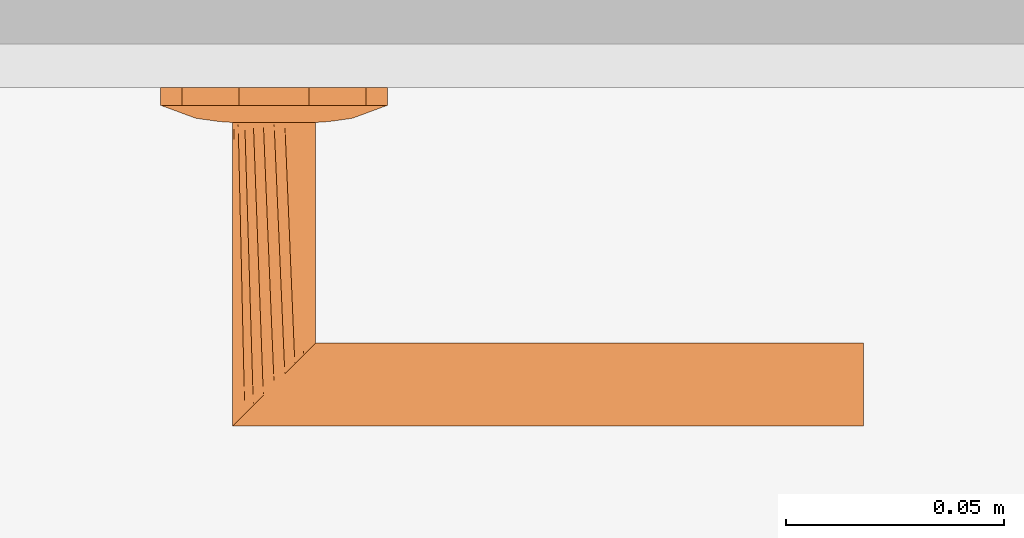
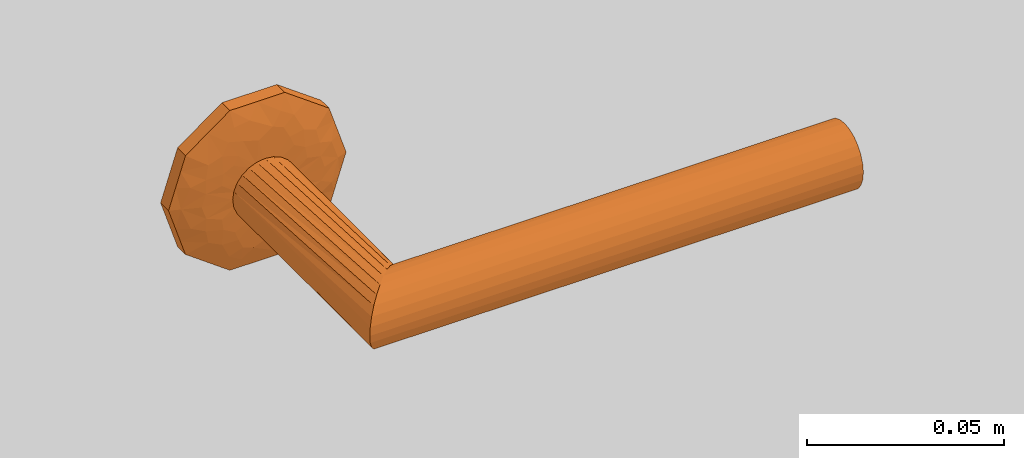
# One storey, part 45 of 57: 1 proxy.
"""IFC2X3 building model written with IfcOpenShell, lengths in millimetres."""

from ifc_helpers import new_model, entity, si_unit, converted_unit, direction, frame, origin, place, context, subcontext, project, spatial, faceted_brep, source, transform, mapped, material, type_object, type_shapes, element, save


model = new_model("IFC2X3")

# Units and contexts
model_context = context("Model", 3, precision=0.01, world=origin(), true_north=direction((6.123233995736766e-17, 1.0)))
plan_context = context("Plan", 3, precision=0.01, world=origin(), true_north=direction((6.123233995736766e-17, 1.0)))
body_context = subcontext(model_context, "Body", "Model", "MODEL_VIEW")
ifc_project = project(units=[si_unit("LENGTHUNIT", "METRE", prefix="MILLI"), converted_unit("PLANEANGLEUNIT", "DEGREE", entity("IfcPlaneAngleMeasure", 0.017453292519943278), si_unit("PLANEANGLEUNIT", "RADIAN"), dimensions=[0, 0, 0, 0, 0, 0, 0]), si_unit("AREAUNIT", "SQUARE_METRE")], contexts=[model_context, plan_context])

# Site, building, storey, space
site_placement = place(None, origin())
site = spatial("IfcSite", under=ifc_project, at=site_placement, Name="Default", CompositionType="ELEMENT")
building_placement = place(site_placement, origin())
building = spatial("IfcBuilding", under=site, at=building_placement, CompositionType="ELEMENT")
storey_placement = place(building_placement, frame((0.0, 0.0, 12811.000000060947)))
storey = spatial("IfcBuildingStorey", under=building, at=storey_placement, Name="5K", CompositionType="ELEMENT", Elevation=12811.000000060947)
space_placement = place(storey_placement, origin())
space = spatial("IfcSpace", under=storey, at=space_placement, Name="5-12.7", CompositionType="ELEMENT", InteriorOrExteriorSpace="INTERNAL")

# Proxy
ifc_material = material(Name="<Unnamed>")
building_element_proxy_type = type_object("IfcBuildingElementProxyType", Name="Door-handle_Lever_ABLOY_INOXI_3-19ss-002_RT:Default", PredefinedType="NOTDEFINED", material=ifc_material)
shared_shape = source(origin(), body_context, "Body", "Brep", [
    faceted_brep([(0.0, 0.0, 0.0), (8.034441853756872, 24.72746942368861, 0.0), (14.534441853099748, 20.00494299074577, 0.0), (21.034441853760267, 15.282416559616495, 0.0), (23.51722092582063, 7.641208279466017, 0.0), (26.0, 0.0, 0.0), (23.517220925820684, -7.641208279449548, 0.0), (0.0, 24.72746942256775, 0.0), (-8.034441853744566, 24.727469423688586, 0.0), (-14.534441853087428, 20.00494299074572, 0.0), (-21.03444185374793, 15.282416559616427, 0.0), (-23.517220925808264, 7.641208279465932, 0.0), (-26.0, 0.0, 0.0), (21.034441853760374, -15.282416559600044, 0.0), (14.534441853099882, -20.004942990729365, 0.0), (8.034441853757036, -24.72746942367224, 0.0), (0.0, -24.72746942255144, 0.0), (-23.517220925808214, -7.641208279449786, 0.0), (-21.034441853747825, -15.282416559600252, 0.0), (-14.53444185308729, -20.004942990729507, 0.0), (-8.0344418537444, -24.72746942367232, 0.0), (0.0, 0.0, 8.0), (9.500000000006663, 0.0, 8.0), (8.312500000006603, 2.056810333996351, 8.0), (7.125000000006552, 4.113620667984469, 8.0), (5.937500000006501, 6.170431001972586, 8.0), (4.7500000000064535, 8.227241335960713, 8.0), (2.375000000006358, 8.2272413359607, 8.0), (0.0, 8.227241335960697, 8.0), (-2.3749999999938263, 8.227241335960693, 8.0), (-4.749999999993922, 8.227241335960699, 8.0), (-5.937499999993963, 6.1704310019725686, 8.0), (-7.124999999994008, 4.1136206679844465, 8.0), (-8.312499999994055, 2.0568103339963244, 8.0), (-9.499999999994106, 0.0, 8.0), (-8.31249999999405, -2.0568103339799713, 8.0), (8.312500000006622, -2.0568103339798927, 8.0), (7.125000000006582, -4.113620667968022, 8.0), (5.937500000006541, -6.170431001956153, 8.0), (4.750000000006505, -8.227241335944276, 8.0), (-7.124999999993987, -4.113620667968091, 8.0), (-5.9374999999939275, -6.17043100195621, 8.0), (-4.74999999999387, -8.227241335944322, 8.0), (-2.374999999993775, -8.227241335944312, 8.0), (0.0, -8.227241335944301, 8.0), (2.3750000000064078, -8.227241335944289, 8.0), (-20.6430713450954, 6.292822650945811, 5.929480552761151), (-16.663919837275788, 7.932665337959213, 6.877259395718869), (-22.48876527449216, 10.806469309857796, 4.030771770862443), (-16.764060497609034, 3.8202578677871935, 7.1747985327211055), (-12.504579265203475, 5.179566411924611, 7.774932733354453), (-11.979136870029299, 13.678312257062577, 6.945778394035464), (-11.963426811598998, 8.62529041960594, 7.618343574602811), (-9.07172672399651, 10.31160661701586, 7.7520782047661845), (8.03444185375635, 24.727469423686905, 4.030771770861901), (0.0, 24.72746942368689, 4.030771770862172), (5.758554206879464, 20.96753300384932, 5.871476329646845), (20.643071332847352, 6.292822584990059, 5.929480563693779), (22.488765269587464, 10.806469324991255, 4.03077177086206), (16.66391982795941, 7.9326653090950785, 6.877259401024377), (9.49943163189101, 18.6436835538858, 6.154325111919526), (14.534441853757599, 20.004942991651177, 4.030771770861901), (-14.534441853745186, 20.00494299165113, 4.030771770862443), (-21.034441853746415, 15.282416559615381, 4.030771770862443), (-15.783149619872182, 11.991003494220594, 6.50080018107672), (-23.943088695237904, 6.330522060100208, 4.030771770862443), (-23.012042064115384, 0.0, 5.135401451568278), (12.50457924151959, 5.179566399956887, 7.774932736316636), (11.963426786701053, 8.625290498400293, 7.618343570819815), (16.76406041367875, 3.820257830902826, 7.17479855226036), (15.783149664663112, 11.991003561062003, 6.50080015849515), (23.01204200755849, 0.0, 5.135401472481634), (17.9853516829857, 0.0, 6.993737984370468), (8.661516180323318, 10.478936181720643, 7.768126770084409), (-3.3573143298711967, 21.197247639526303, 5.971427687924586), (-8.03444185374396, 24.727469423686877, 4.030771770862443), (-7.711266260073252, 12.76034452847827, 7.594456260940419), (-5.97325794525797, 16.43013906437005, 7.110979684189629), (-9.94191586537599, 17.061976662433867, 6.522757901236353), (11.979136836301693, 13.678312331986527, 6.945778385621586), (5.953298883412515, 16.50608604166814, 7.096344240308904), (7.511307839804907, 13.358932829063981, 7.529187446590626), (-1.5654593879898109, 15.307443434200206, 7.519134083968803), (-7.784980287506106, 20.476295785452, 5.812837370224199), (2.8135289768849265, 17.763922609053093, 6.993737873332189), (-17.985351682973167, 0.0, 6.993737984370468), (-26.0, 0.0, 4.030771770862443), (-23.51722092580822, 7.641208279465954, 4.030771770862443), (26.0, 0.0, 4.030771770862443), (24.308823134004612, 5.204907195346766, 4.030771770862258), (23.943088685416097, 6.330522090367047, 4.030771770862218), (21.03444185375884, 15.282416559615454, 4.030771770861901), (22.617646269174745, 10.40981439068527, 4.030771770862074), (20.6430713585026, -6.292822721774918, 5.929480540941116), (16.663919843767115, -7.932665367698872, 6.877259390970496), (22.48876527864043, -10.8064692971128, 4.030771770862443), (16.764060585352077, -3.8202579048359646, 7.174798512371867), (12.504579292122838, -5.17956641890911, 7.774932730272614), (11.979136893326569, -13.678312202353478, 6.9457784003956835), (11.963426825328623, -8.62529034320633, 7.618343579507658), (9.071726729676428, -10.311606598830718, 7.752078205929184), (-8.03444185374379, -24.727469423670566, 4.030771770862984), (0.0, -24.727469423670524, 4.030771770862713), (-5.758554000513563, -20.96753314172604, 5.8714763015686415), (-20.643071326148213, -6.292822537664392, 5.929480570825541), (-22.488765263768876, -10.80646934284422, 4.030771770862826), (-16.66391981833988, -7.932665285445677, 6.877259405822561), (-9.499431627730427, -18.643683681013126, 6.154325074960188), (-14.534441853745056, -20.004942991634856, 4.030771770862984), (14.53444185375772, -20.00494299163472, 4.030771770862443), (21.034441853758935, -15.282416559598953, 4.030771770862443), (15.783149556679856, -11.991003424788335, 6.5008002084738), (23.943088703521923, -6.330522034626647, 4.030771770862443), (-12.504579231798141, -5.17956638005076, 7.77493273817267), (-11.963426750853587, -8.625290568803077, 7.618343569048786), (-16.764060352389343, -3.8202577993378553, 7.174798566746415), (-15.783149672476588, -11.991003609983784, 6.500800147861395), (-8.661516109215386, -10.478936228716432, 7.768126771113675), (3.3573144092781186, -21.197247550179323, 5.971427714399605), (8.034441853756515, -24.727469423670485, 4.030771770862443), (7.711266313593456, -12.760344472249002, 7.5944562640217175), (5.9732581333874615, -16.430139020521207, 7.110979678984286), (9.941915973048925, -17.06197655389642, 6.522757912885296), (-11.979136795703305, -13.678312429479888, 6.945778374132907), (-5.953298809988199, -16.506086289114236, 7.096344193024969), (-7.511307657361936, -13.358932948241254, 7.5291874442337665), (1.5654596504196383, -15.3074431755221, 7.519134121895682), (7.784980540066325, -20.476295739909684, 5.812837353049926), (-2.81352881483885, -17.76392263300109, 6.993737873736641), (23.517220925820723, -7.64120827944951, 4.030771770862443), (-24.308823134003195, -5.20490719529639, 4.030771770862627), (-23.943088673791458, -6.330522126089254, 4.030771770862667), (-21.034441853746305, -15.282416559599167, 4.030771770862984), (-22.617646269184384, -10.409814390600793, 4.0307717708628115)], [[[0, 1, 2]], [[0, 2, 3]], [[0, 3, 4]], [[0, 4, 5]], [[0, 5, 6]], [[0, 7, 1]], [[0, 8, 7]], [[0, 9, 8]], [[0, 10, 9]], [[0, 11, 10]], [[0, 12, 11]], [[0, 6, 13]], [[0, 13, 14]], [[0, 14, 15]], [[0, 15, 16]], [[0, 17, 12]], [[0, 18, 17]], [[0, 19, 18]], [[0, 20, 19]], [[0, 16, 20]], [[21, 22, 23]], [[21, 23, 24]], [[21, 24, 25]], [[21, 25, 26]], [[21, 26, 27]], [[21, 27, 28]], [[21, 28, 29]], [[21, 29, 30]], [[21, 30, 31]], [[21, 31, 32]], [[21, 32, 33]], [[21, 33, 34]], [[21, 34, 35]], [[21, 36, 22]], [[21, 37, 36]], [[21, 38, 37]], [[21, 39, 38]], [[21, 35, 40]], [[21, 40, 41]], [[21, 41, 42]], [[21, 42, 43]], [[21, 43, 44]], [[21, 44, 45]], [[21, 45, 39]], [[46, 47, 48]], [[49, 50, 47]], [[33, 32, 50]], [[51, 52, 53]], [[32, 52, 50]], [[49, 47, 46]], [[54, 55, 56]], [[57, 58, 59]], [[60, 61, 54]], [[62, 63, 64]], [[46, 65, 66]], [[67, 59, 68]], [[23, 69, 67]], [[70, 68, 59]], [[23, 22, 69]], [[52, 51, 64]], [[71, 69, 72]], [[73, 25, 68]], [[74, 55, 75]], [[76, 77, 78]], [[70, 61, 79]], [[71, 57, 69]], [[60, 80, 81]], [[51, 76, 78]], [[77, 29, 82]], [[26, 81, 27]], [[74, 83, 77]], [[77, 82, 74]], [[74, 84, 55]], [[34, 49, 85]], [[23, 67, 24]], [[28, 84, 82]], [[74, 82, 84]], [[29, 76, 30]], [[29, 28, 82]], [[49, 34, 33]], [[47, 50, 52]], [[47, 52, 64]], [[50, 49, 33]], [[53, 76, 51]], [[52, 32, 31]], [[49, 66, 85]], [[86, 66, 65]], [[24, 67, 68]], [[83, 78, 77]], [[49, 46, 66]], [[48, 64, 63]], [[46, 48, 87, 65]], [[48, 47, 64]], [[59, 67, 69]], [[26, 73, 81]], [[79, 68, 70]], [[25, 24, 68]], [[71, 88, 89, 90]], [[22, 72, 69]], [[59, 69, 57]], [[79, 61, 60]], [[51, 62, 64]], [[70, 58, 91]], [[90, 57, 71]], [[58, 70, 59]], [[57, 90, 92]], [[79, 60, 81]], [[61, 70, 91]], [[56, 80, 60]], [[79, 81, 73]], [[80, 84, 27]], [[79, 73, 68]], [[27, 84, 28]], [[25, 73, 26]], [[77, 76, 29]], [[31, 30, 53]], [[78, 62, 51]], [[75, 62, 83]], [[78, 83, 62]], [[75, 83, 74]], [[76, 53, 30]], [[31, 53, 52]], [[81, 80, 27]], [[84, 80, 56]], [[84, 56, 55]], [[54, 56, 60]], [[93, 94, 95]], [[96, 97, 94]], [[36, 37, 97]], [[98, 99, 100]], [[37, 99, 97]], [[96, 94, 93]], [[101, 102, 103]], [[104, 105, 106]], [[107, 108, 101]], [[109, 110, 111]], [[93, 112, 71]], [[113, 106, 114]], [[35, 115, 113]], [[116, 114, 106]], [[35, 34, 115]], [[99, 98, 111]], [[66, 115, 85]], [[117, 41, 114]], [[118, 102, 119]], [[120, 121, 122]], [[116, 108, 123]], [[66, 104, 115]], [[107, 124, 125]], [[120, 45, 121]], [[121, 45, 126]], [[42, 125, 43]], [[118, 127, 121]], [[121, 126, 118]], [[118, 128, 102]], [[22, 96, 72]], [[35, 113, 40]], [[44, 128, 126]], [[118, 126, 128]], [[45, 120, 39]], [[45, 44, 126]], [[96, 22, 36]], [[94, 97, 99]], [[94, 99, 111]], [[97, 96, 36]], [[100, 120, 98]], [[99, 37, 38]], [[96, 71, 72]], [[88, 71, 112]], [[40, 113, 114]], [[127, 122, 121]], [[96, 93, 71]], [[95, 111, 110]], [[93, 95, 129, 112]], [[95, 94, 111]], [[106, 113, 115]], [[42, 117, 125]], [[123, 114, 116]], [[41, 40, 114]], [[66, 86, 130, 131]], [[34, 85, 115]], [[106, 115, 104]], [[123, 108, 107]], [[98, 109, 111]], [[116, 105, 132]], [[131, 104, 66]], [[105, 116, 106]], [[104, 131, 133]], [[123, 107, 125]], [[108, 116, 132]], [[103, 124, 107]], [[123, 125, 117]], [[124, 128, 43]], [[123, 117, 114]], [[43, 128, 44]], [[41, 117, 42]], [[38, 39, 100]], [[98, 120, 122]], [[122, 109, 98]], [[119, 109, 127]], [[122, 127, 109]], [[119, 127, 118]], [[120, 100, 39]], [[38, 100, 99]], [[125, 124, 43]], [[128, 124, 103]], [[128, 103, 102]], [[101, 103, 107]], [[9, 10, 63, 62, 75, 8]], [[11, 12, 86, 65, 87, 48, 63, 10]], [[4, 3, 92, 90, 89, 88, 5]], [[3, 91, 58]], [[55, 54, 1, 7, 8, 75]], [[3, 2, 1, 54, 61, 91]], [[13, 6, 5, 88, 112, 129, 95, 110]], [[119, 15, 14, 13, 110, 109]], [[17, 18, 133, 131, 130, 86, 12]], [[18, 132, 105]], [[102, 101, 20, 16, 15, 119]], [[18, 19, 20, 101, 108, 132]], [[57, 92, 58]], [[104, 133, 105]], [[3, 58, 92]], [[18, 105, 133]]]),
    faceted_brep([(0.0, 9.499999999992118, 8.0), (2.4587809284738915, 9.176295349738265, 8.0), (4.7499999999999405, 8.22724133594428, 8.0), (6.717514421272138, 6.7175144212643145, 8.0), (8.227241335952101, 4.749999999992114, 8.0), (9.17629534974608, 2.458780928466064, 8.0), (9.499999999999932, 0.0, 8.0), (9.17629534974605, -2.458780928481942, 8.0), (8.22724133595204, -4.75000000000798, 8.0), (6.717514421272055, -6.717514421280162, 8.0), (4.7499999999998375, -8.227241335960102, 8.0), (2.4587809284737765, -9.176295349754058, 8.0), (0.0, -9.500000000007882, 8.0), (-2.4587809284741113, -9.176295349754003, 8.0), (-4.750000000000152, -8.227241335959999, 8.0), (-6.717514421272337, -6.717514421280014, 8.0), (-8.227241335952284, -4.750000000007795, 8.0), (-9.176295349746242, -2.458780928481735, 8.0), (-9.500000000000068, 0.0, 8.0), (-9.176295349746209, 2.4587809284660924, 8.0), (-8.227241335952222, 4.74999999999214, 8.0), (-6.717514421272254, 6.717514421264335, 8.0), (-4.7500000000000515, 8.227241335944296, 8.0), (-2.4587809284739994, 9.176295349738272, 8.0), (-6.717514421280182, -6.7175144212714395, 61.282485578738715), (-8.227241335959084, -4.7499999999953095, 59.772758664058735), (-9.176295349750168, -2.458780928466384, 58.82370465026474), (-2.4587809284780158, -9.176295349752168, 65.54121907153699), (-4.750000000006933, -8.227241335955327, 63.25000000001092), (-9.500000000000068, 0.0, 58.50000000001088), (0.0, -9.50000000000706, 68.0), (2.4587809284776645, -9.17629534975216, 70.45878092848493), (4.750000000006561, -8.227241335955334, 72.75000000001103), (6.717514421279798, -6.7175144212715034, 74.71751442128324), (9.17629534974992, -2.458780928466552, 77.17629534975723), (8.22724133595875, -4.749999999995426, 76.22724133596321), (9.499999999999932, 0.0, 77.50000000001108), (9.176295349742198, 2.4587809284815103, 77.1762953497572), (8.227241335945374, 4.750000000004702, 76.22724133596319), (4.749999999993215, 8.227241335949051, 72.75000000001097), (6.7175144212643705, 6.717514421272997, 74.7175144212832), (2.4587809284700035, 9.17629534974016, 70.45878092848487), (-2.4587809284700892, 9.176295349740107, 65.54121907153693), (0.0, 9.49999999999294, 68.0), (-6.717514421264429, 6.717514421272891, 61.282485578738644), (-4.749999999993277, 8.227241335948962, 63.250000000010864), (-9.176295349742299, 2.458780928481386, 58.8237046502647), (-8.227241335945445, 4.750000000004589, 59.77275866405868), (-135.0, 9.500000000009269, 68.0), (-135.0, 9.176295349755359, 65.54121907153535), (-135.0, 8.227241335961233, 63.25000000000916), (-135.0, 6.7175144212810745, 61.28248557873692), (-135.0, 4.750000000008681, 59.772758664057), (-135.0, 2.458780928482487, 58.82370465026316), (-135.0, 0.0, 58.50000000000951), (-135.0, -2.458780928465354, 58.823704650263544), (-135.0, -4.749999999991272, 59.772758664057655), (-135.0, -6.717514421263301, 61.28248557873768), (-135.0, -8.227241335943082, 63.250000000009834), (-135.0, -9.17629534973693, 65.54121907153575), (-135.0, -9.499999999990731, 68.0), (-135.0, -9.17629534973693, 70.45878092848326), (-135.0, -8.227241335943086, 72.75000000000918), (-135.0, -6.717514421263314, 74.71751442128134), (-135.0, -4.749999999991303, 76.22724133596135), (-135.0, -2.4587809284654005, 77.17629534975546), (-135.0, 0.0, 77.5000000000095), (-135.0, 2.4587809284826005, 77.17629534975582), (-135.0, 4.750000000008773, 76.22724133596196), (-135.0, 6.717514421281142, 74.71751442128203), (-135.0, 8.227241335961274, 72.75000000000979), (-135.0, 9.176295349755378, 70.4587809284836)], [[[0, 1, 2, 3, 4, 5, 6, 7, 8, 9, 10, 11, 12, 13, 14, 15, 16, 17, 18, 19, 20, 21, 22, 23]], [[15, 24, 25, 16]], [[16, 25, 26, 17]], [[27, 28, 12]], [[12, 28, 13]], [[13, 28, 24]], [[18, 17, 26, 29]], [[24, 15, 14]], [[14, 13, 24]], [[11, 30, 27]], [[31, 9, 32]], [[32, 8, 33]], [[34, 35, 7]], [[7, 35, 33]], [[36, 34, 7, 6]], [[30, 11, 10]], [[11, 27, 12]], [[33, 8, 7]], [[8, 32, 9]], [[31, 10, 9]], [[10, 31, 30]], [[37, 36, 6, 5]], [[37, 5, 38]], [[39, 40, 4]], [[5, 40, 38]], [[41, 39, 3]], [[5, 4, 40]], [[42, 43, 1]], [[2, 1, 43]], [[2, 41, 3]], [[39, 4, 3]], [[2, 43, 41]], [[23, 44, 45]], [[0, 45, 42]], [[19, 18, 29, 46]], [[20, 19, 46, 47]], [[21, 20, 47, 44]], [[23, 22, 44]], [[45, 0, 23]], [[44, 22, 21]], [[1, 0, 42]], [[48, 49, 50, 51, 52, 53, 54, 55, 56, 57, 58, 59, 60, 61, 62, 63, 64, 65, 66, 67, 68, 69, 70, 71]], [[26, 25, 56, 55]], [[29, 26, 55, 54]], [[28, 27, 59, 58]], [[24, 28, 58, 57]], [[25, 24, 57, 56]], [[27, 30, 60, 59]], [[32, 33, 63, 62]], [[31, 32, 62, 61]], [[34, 36, 66, 65]], [[35, 34, 65, 64]], [[33, 35, 64, 63]], [[61, 60, 30, 31]], [[38, 68, 67, 37]], [[37, 67, 66, 36]], [[41, 71, 70, 39]], [[39, 70, 69, 40]], [[40, 69, 68, 38]], [[48, 71, 41, 43]], [[44, 51, 50, 45]], [[45, 50, 49, 42]], [[29, 54, 53, 46]], [[46, 53, 52, 47]], [[47, 52, 51, 44]], [[42, 49, 48, 43]]]),
])
type_shapes(building_element_proxy_type, [shared_shape])
proxy_placement = place(space_placement, frame((7628.0, 4798.0, 1000.0), z_axis=(0.0, -1.0, 0.0), x_axis=(-1.0, 0.0, 0.0)))
element("IfcBuildingElementProxy", 1, at=proxy_placement, inside=space, type_object=building_element_proxy_type, material=ifc_material, Name="Door-handle_Lever_ABLOY_INOXI_3-19ss-002_RT:Default", ObjectType="Door-handle_Lever_ABLOY_INOXI_3-19ss-002_RT:Default", context=body_context, shape_type="MappedRepresentation", body=[
    mapped(shared_shape, transform((0.0, 0.0, 0.0), scale=1.0)),
])

save(model, "model.ifc")
